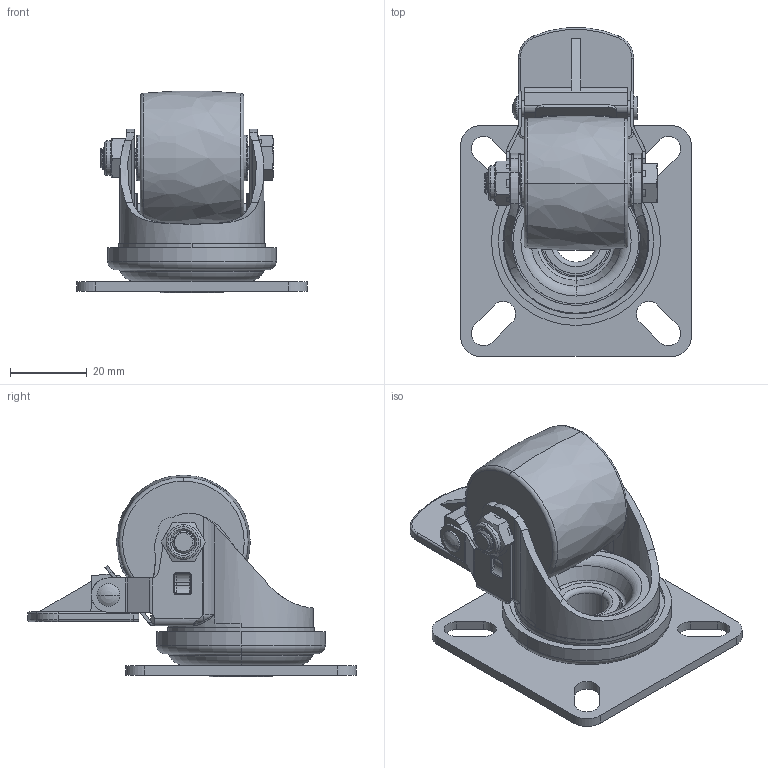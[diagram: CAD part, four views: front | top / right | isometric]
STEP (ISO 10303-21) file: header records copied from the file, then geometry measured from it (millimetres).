
FILE_DESCRIPTION((''),'2;1');
FILE_NAME('TZ','2020-08-01T',('Administrator'),(''),'PRO/ENGINEER BY PARAMETRIC TECHNOLOGY CORPORATION, 2012480','PRO/ENGINEER BY PARAMETRIC TECHNOLOGY CORPORATION, 2012480','');
FILE_SCHEMA(('CONFIG_CONTROL_DESIGN'));
Length unit declared in the file: millimetre
Products named in the file (1): TZ
Bounding box: 60 x 85.51 x 52.53 mm (x, y, z)
Volume: 54832.6 mm3; surface area: 29668.5 mm2
Topology: 3 solids, 5 shells, 506 faces, 1306 edges, 821 vertices
Faces by surface type: cylinder 182, plane 156, bspline 82, torus 58, cone 26, sphere 2
Entity records: 26551 total; most frequent: CARTESIAN_POINT 14548, ORIENTED_EDGE 2604, DIRECTION 2364, EDGE_CURVE 1302, AXIS2_PLACEMENT_3D 910, VERTEX_POINT 821, EDGE_LOOP 565, VECTOR 544
